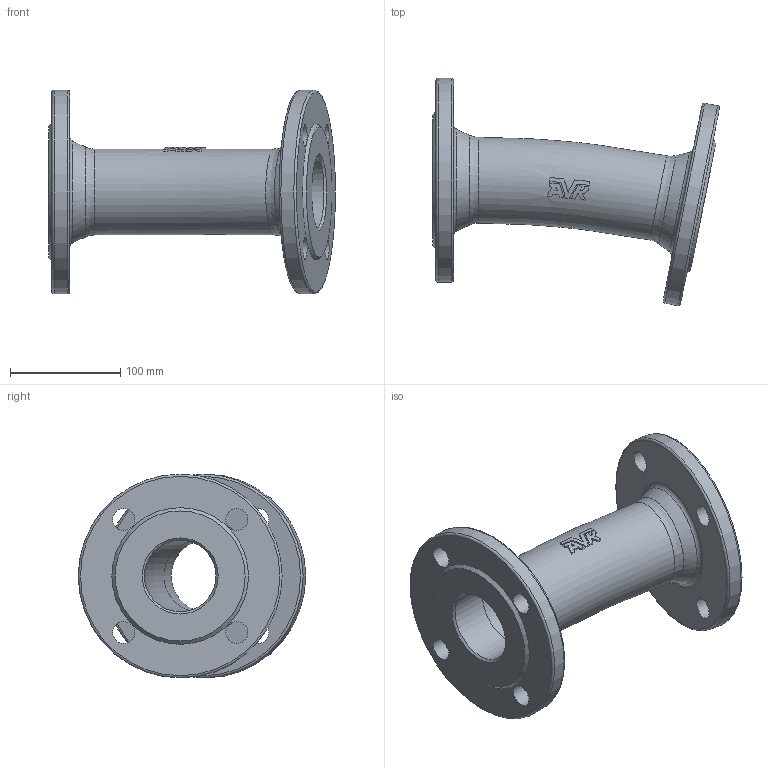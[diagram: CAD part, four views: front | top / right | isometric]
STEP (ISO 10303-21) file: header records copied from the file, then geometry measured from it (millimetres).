
FILE_DESCRIPTION (( 'STEP AP203' ), '1' );
FILE_NAME ('O_712_0110_DN065_REV02.step', '2024-08-15T07:33:14', ( '' ), ( '' ), 'SwSTEP 2.0', 'SolidWorks 2022', '' );
FILE_SCHEMA (( 'CONFIG_CONTROL_DESIGN' ));
Length unit declared in the file: millimetre
Products named in the file (1): O_712_0110_DN065_REV02
Bounding box: 260.37 x 206.48 x 185 mm (x, y, z)
Volume: 1108907.8 mm3; surface area: 210554.6 mm2
Topology: 1 solids, 1 shells, 112 faces, 307 edges, 205 vertices
Faces by surface type: cylinder 51, plane 41, torus 12, cone 6, bspline 2
Full cylindrical faces by diameter (mm): 20 x8, 65 x2, 185 x2
Entity records: 4996 total; most frequent: CARTESIAN_POINT 2520, ORIENTED_EDGE 528, DIRECTION 372, EDGE_CURVE 264, VERTEX_POINT 190, EDGE_LOOP 166, B_SPLINE_CURVE_WITH_KNOTS 152, AXIS2_PLACEMENT_3D 149
